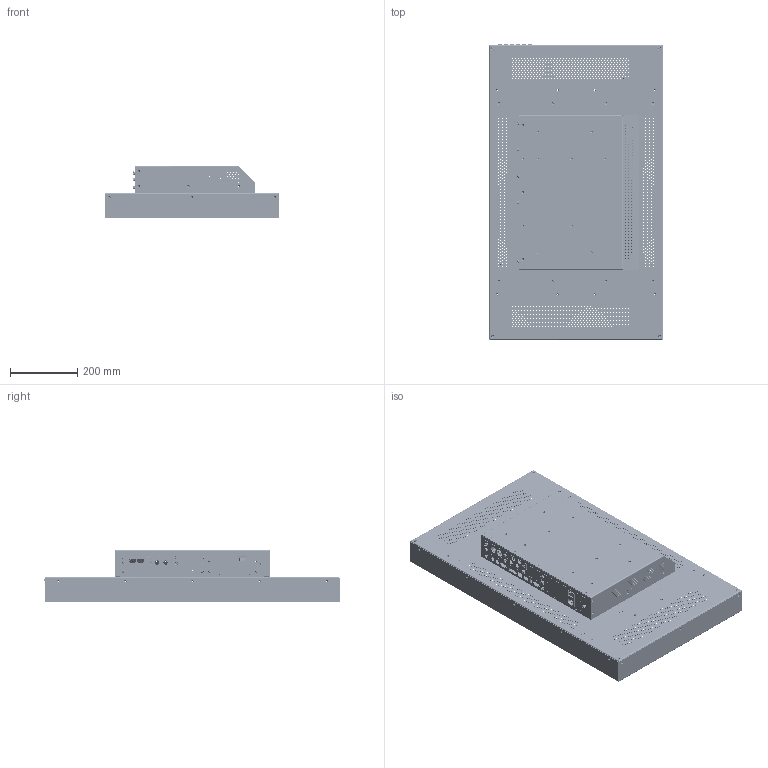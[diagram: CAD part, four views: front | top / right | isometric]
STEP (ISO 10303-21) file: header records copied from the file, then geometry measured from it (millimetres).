
FILE_DESCRIPTION((''),'2;1');
FILE_NAME('37Z-000-00A_ZOLL_NEU_ASM_ASM','2010-09-16T',('CADuser'),(''),'PRO/ENGINEER BY PARAMETRIC TECHNOLOGY CORPORATION, 2006320','PRO/ENGINEER BY PARAMETRIC TECHNOLOGY CORPORATION, 2006320','');
FILE_SCHEMA(('CONFIG_CONTROL_DESIGN'));
Length unit declared in the file: millimetre
Products named in the file (63): 370-010_01A_FRONTRAHMEN_19; 370-010_02A_4KT-ROHR_14; ERDUNGSLASCHE-ALU_3; 37Z-010_00A_BG-FRONTRAHMEN_ASM__ASM; 370-020_01A_MONTAGEPLATTE_29; 370-020_02A_VERSTEIFUNG_MONT-P_; BEDIENSTREIFEN_F_S__R_285-22262; EPB_M2_5X19_4; MUTTER_M2_5_SS_4; ABSTANDROLLE_D3X3_4; ABSTANDROLLE_D3X5_4; MUTTER_M2_5_4; BEDIENSTREIFEN_F_S__R_285-22223_ASM; 370-021_01A_WINKEL-NEU_16; SO4-M5-14_4; HLFSBG-WINKELBEFESTIGUNG_ASM_9_ASM; GEWINDESTIFT_M5X20_4; 370-021_00A_U-PROFIL_BG_ASM_10_ASM; 600-010_01C_95; RDC-600_LEITERPL-FUEHRUNG_4; EAB_M3X6_3; 600-011_01C_39; EINNIETMUTTER_M3_SK_3; 600-011_00C_ASM_20_ASM; KVT_RMHB_M4_161_2_03_1; KVT_FH_M4_12_2_03_5; 600-010_00B_BEFEST-RUECKHAUBE_A_ASM; KVT_RMHB_M5_161_2_03_1; 370-020_00A_BG-MONTAGEPLATTE_AS_ASM; 600-040_01B_39; 600-040_02B_24; ERDUNGS-SCHW-LASCHE-6_3X0_8_4; KVT_M6_RC_ROKSG_3_5__13__2_03_6; KVT_M6_30_TSN_ST__13__2_03_4; 600-040_00B_ASM_22_ASM; 600-020_01B_45; 600-020_02B_37; 600-020_00B_ASM_27_ASM; 600-051_01B_AF0_38; 600-052_01B_AF0_24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
Assembly tree (167 placements, depth 6):
  37Z-000-00A_ZOLL_NEU_ASM_ASM
    37Z-000-00A_ZOLL_NEU_ASM_15_ASM
      37Z-010_00A_BG-FRONTRAHMEN_ASM__ASM
        370-010_01A_FRONTRAHMEN_19
        370-010_02A_4KT-ROHR_14  x2
        ERDUNGSLASCHE-ALU_3
      370-020_00A_BG-MONTAGEPLATTE_AS_ASM
        370-020_01A_MONTAGEPLATTE_29
        370-020_02A_VERSTEIFUNG_MONT-P_  x3
        BEDIENSTREIFEN_F_S__R_285-22223_ASM
          BEDIENSTREIFEN_F_S__R_285-22262
          EPB_M2_5X19_4  x3
          MUTTER_M2_5_SS_4  x3
          ABSTANDROLLE_D3X3_4  x3
          ABSTANDROLLE_D3X5_4  x3
          MUTTER_M2_5_4  x3
        370-021_00A_U-PROFIL_BG_ASM_10_ASM  x2
          HLFSBG-WINKELBEFESTIGUNG_ASM_9_ASM
            370-021_01A_WINKEL-NEU_16
            SO4-M5-14_4  x4
          GEWINDESTIFT_M5X20_4
        600-010_00B_BEFEST-RUECKHAUBE_A_ASM
          600-010_01C_95
          RDC-600_LEITERPL-FUEHRUNG_4  x4
          EAB_M3X6_3  x7
          600-011_00C_ASM_20_ASM
            600-011_01C_39
            EINNIETMUTTER_M3_SK_3  x11
          KVT_RMHB_M4_161_2_03_1  x18
          KVT_FH_M4_12_2_03_5
        EPB_M2_5X19_4  x3
        KVT_RMHB_M4_161_2_03_1  x16
        KVT_RMHB_M5_161_2_03_1  x12
      RUECKTEIL_32-47Z_ASM_64_ASM
        600-040_00B_ASM_22_ASM
          600-040_01B_39
          600-040_02B_24
          ERDUNGS-SCHW-LASCHE-6_3X0_8_4
          KVT_M6_RC_ROKSG_3_5__13__2_03_6  x5
          KVT_M6_30_TSN_ST__13__2_03_4  x5
        600-020_00B_ASM_27_ASM
          600-020_01B_45
          600-020_02B_37  x2
        NT2-002_00A_NT-EINSCHUB_32-47Z__ASM
          600-051_01B_AF0_38
          600-052_01B_AF0_24
          GERAETESTECKER_SCHURTER_KMF1116
          600-053_01B_AF0_30
          NETZTEIL_JPS250_4
          003091091_3
          PRT0001_3
          NETZTEIL_XPPOWER_7
          4C-PH-M3-2F1_4_ASM  x2
            MANIFOLD_SOLID_BREP_305191
            MANIFOLD_SOLID_BREP_305767
            MANIFOLD_SOLID_BREP_320814
        600-031_00C_ASM_10_ASM
          600-031_01B_21
          4C-PH-M3-2F1_4_ASM  x3
            MANIFOLD_SOLID_BREP_305191
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Bounding box: 521.5 x 883.95 x 157.1 mm (x, y, z)
Volume: 3198438.5 mm3; surface area: 3529833.7 mm2
Topology: 178 solids, 214 shells, 16744 faces, 45420 edges, 29034 vertices
Faces by surface type: cylinder 9382, plane 4025, cone 1973, torus 992, sphere 281, bspline 91
Entity records: 322832 total; most frequent: DIRECTION 58863, CARTESIAN_POINT 58103, ORIENTED_EDGE 51662, EDGE_CURVE 25877, AXIS2_PLACEMENT_3D 24217, VERTEX_POINT 16982, EDGE_LOOP 15591, CIRCLE 14814
